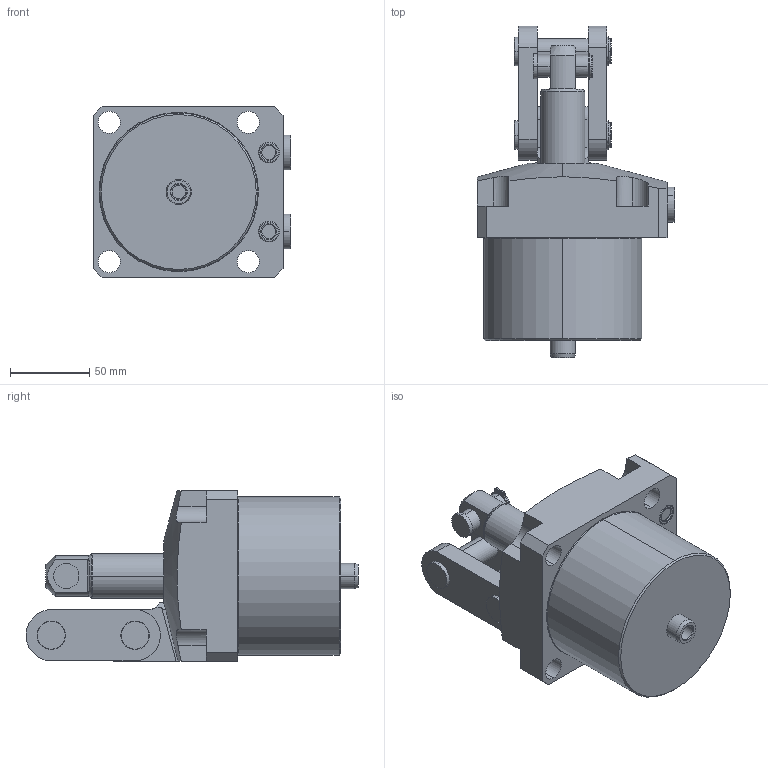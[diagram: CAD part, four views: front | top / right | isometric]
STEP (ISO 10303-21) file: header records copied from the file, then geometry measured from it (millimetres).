
FILE_DESCRIPTION(/* description */ (''),/* implementation_level */ '2;1');
FILE_NAME(/* name */ 'TPC25-RD.stp',/* time_stamp */ '2025-01-05T10:09:06+08:00',/* author */ (''),/* organization */ (''),/* preprocessor_version */ 'ST-DEVELOPER v16.7',/* originating_system */ 'SIEMENS PLM Software NX 12.0',/* authorisation */ '');
FILE_SCHEMA (('AUTOMOTIVE_DESIGN { 1 0 10303 214 3 1 1 1 }'));
Length unit declared in the file: millimetre
Products named in the file (5): TPC25-RD-04; TPC25-RD-03; TPC25-RD-02; TPC25-RD-01; TPC25-RD_stp
Assembly tree (5 placements, depth 2):
  TPC25-RD_stp
    TPC25-RD-01
    TPC25-RD-02
    TPC25-RD-03
    TPC25-RD-04  x2
Bounding box: 124.8 x 210 x 108 mm (x, y, z)
Volume: 1139177.6 mm3; surface area: 118508.5 mm2
Topology: 5 solids, 7 shells, 302 faces, 712 edges, 452 vertices
Faces by surface type: cylinder 127, plane 117, torus 34, cone 24
Entity records: 8449 total; most frequent: CARTESIAN_POINT 1598, DIRECTION 1512, ORIENTED_EDGE 1332, EDGE_CURVE 666, AXIS2_PLACEMENT_3D 603, VERTEX_POINT 424, EDGE_LOOP 328, CIRCLE 317
